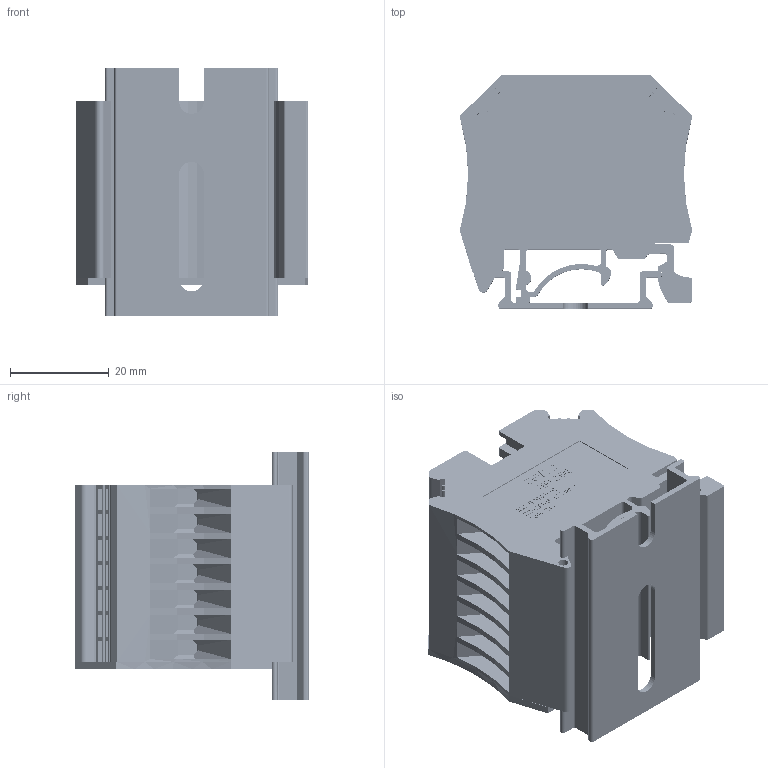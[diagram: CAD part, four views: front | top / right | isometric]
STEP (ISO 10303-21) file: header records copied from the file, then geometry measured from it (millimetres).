
FILE_DESCRIPTION((''),'2;1');
FILE_NAME('ASM0002_ASM','2016-06-13T',('Administrator'),(''),'PRO/ENGINEER BY PARAMETRIC TECHNOLOGY CORPORATION, 2012360','PRO/ENGINEER BY PARAMETRIC TECHNOLOGY CORPORATION, 2012360','');
FILE_SCHEMA(('CONFIG_CONTROL_DESIGN'));
Products named in the file (1): ASM0002_ASM
Bounding box: 47 x 47.2 x 50 mm (x, y, z)
Volume: 34698 mm3; surface area: 53373.1 mm2
Topology: 15 solids, 85 shells, 15025 faces, 42922 edges, 28381 vertices
Faces by surface type: plane 12353, cylinder 1805, bspline 567, cone 230, torus 42, extrusion 28
Entity records: 593627 total; most frequent: CARTESIAN_POINT 208178, ORIENTED_EDGE 85732, DIRECTION 70076, EDGE_CURVE 42866, VECTOR 36772, LINE 36744, VERTEX_POINT 28353, AXIS2_PLACEMENT_3D 16652
